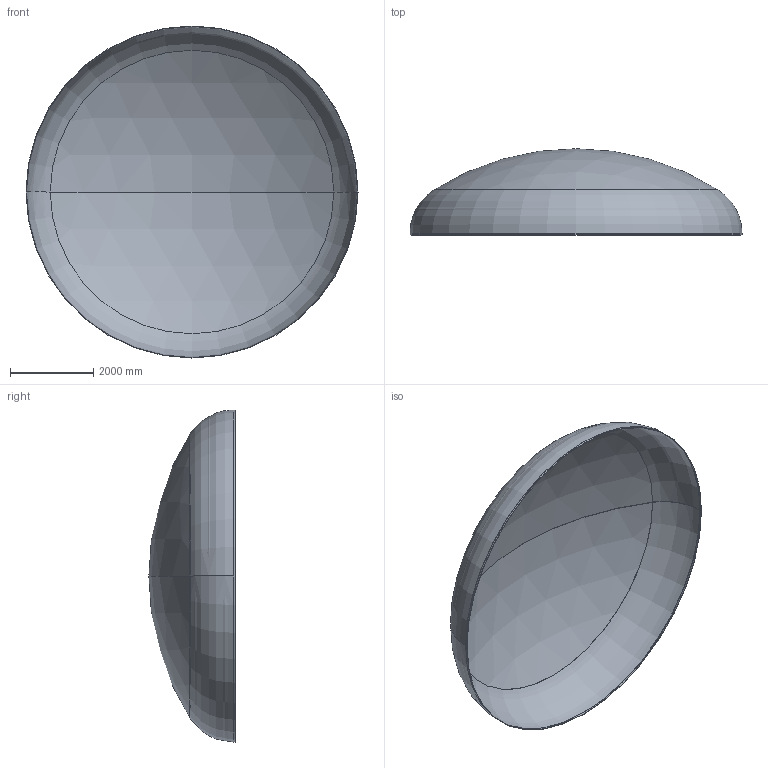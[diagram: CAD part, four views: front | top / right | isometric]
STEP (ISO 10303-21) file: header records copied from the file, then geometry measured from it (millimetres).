
FILE_DESCRIPTION (( 'STEP AP203' ), '1' );
FILE_NAME ('DIN 28013 Korbbogenform_-_Boden DIN 28013 - 8000 x 40 - I - s=11.step', '2016-07-04T10:58:20', ( '' ), ( '' ), 'SwSTEP 2.0', 'SolidWorks 2013', '' );
FILE_SCHEMA (( 'CONFIG_CONTROL_DESIGN' ));
Length unit declared in the file: millimetre
Products named in the file (1): DIN 28013 Korbbogenform_-_Boden DIN 28013 - 8000 x 40 - I - s=11
Bounding box: 8000 x 2078.72 x 8000 mm (x, y, z)
Volume: 775279708 mm3; surface area: 141236221.6 mm2
Topology: 1 solids, 1 shells, 13 faces, 24 edges, 14 vertices
Faces by surface type: torus 4, cylinder 4, sphere 4, plane 1
Entity records: 407 total; most frequent: DIRECTION 72, CARTESIAN_POINT 52, ORIENTED_EDGE 48, AXIS2_PLACEMENT_3D 34, EDGE_CURVE 24, CIRCLE 20, VERTEX_POINT 14, EDGE_LOOP 14
